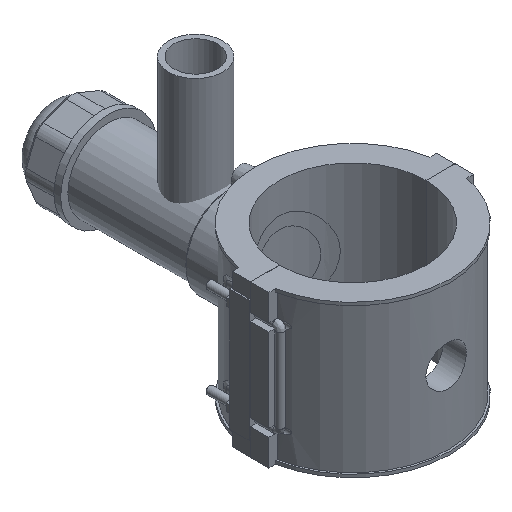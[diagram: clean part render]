
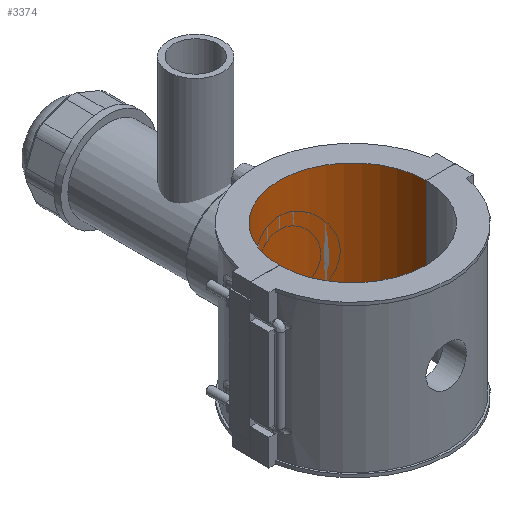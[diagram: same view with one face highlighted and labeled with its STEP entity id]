
A CAD part, isometric view. The second image highlights one B-rep face of the part: STEP entity #3374.
In plain terms, the highlighted cylindrical face has radius 57.05 mm (diameter 114.1 mm), a partial arc.
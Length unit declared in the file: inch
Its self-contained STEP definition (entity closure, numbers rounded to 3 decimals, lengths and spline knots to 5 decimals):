
#269=CIRCLE('',#3663,2.24606);
#270=CIRCLE('',#3665,2.24606);
#454=FACE_OUTER_BOUND('',#669,.T.);
#669=EDGE_LOOP('',(#2851,#2852,#2853,#2854));
#921=LINE('',#6310,#1222);
#955=LINE('',#6628,#1256);
#1222=VECTOR('',#4256,0.3937);
#1256=VECTOR('',#4390,0.3937);
#1590=VERTEX_POINT('',#6307);
#1591=VERTEX_POINT('',#6309);
#1626=VERTEX_POINT('',#6625);
#1627=VERTEX_POINT('',#6627);
#1994=EDGE_CURVE('',#1591,#1590,#921,.T.);
#2058=EDGE_CURVE('',#1627,#1626,#955,.T.);
#2061=EDGE_CURVE('',#1591,#1626,#269,.T.);
#2062=EDGE_CURVE('',#1627,#1590,#270,.T.);
#2851=ORIENTED_EDGE('',*,*,#2058,.T.);
#2852=ORIENTED_EDGE('',*,*,#2061,.F.);
#2853=ORIENTED_EDGE('',*,*,#1994,.T.);
#2854=ORIENTED_EDGE('',*,*,#2062,.F.);
#3229=CYLINDRICAL_SURFACE('',#3666,2.24606);
#3374=ADVANCED_FACE('',(#454),#3229,.F.);
#3663=AXIS2_PLACEMENT_3D('',#6633,#4395,#4396);
#3665=AXIS2_PLACEMENT_3D('',#6635,#4399,#4400);
#3666=AXIS2_PLACEMENT_3D('',#6638,#4403,#4404);
#4256=DIRECTION('',(0.,0.,-1.));
#4390=DIRECTION('',(0.,0.,1.));
#4395=DIRECTION('center_axis',(0.,0.,-1.));
#4396=DIRECTION('ref_axis',(-1.,0.,0.));
#4399=DIRECTION('center_axis',(0.,0.,1.));
#4400=DIRECTION('ref_axis',(-1.,0.,0.));
#4403=DIRECTION('center_axis',(0.,0.,1.));
#4404=DIRECTION('ref_axis',(-1.,0.,0.));
#6307=CARTESIAN_POINT('',(-2.24606,0.00197,-2.325));
#6309=CARTESIAN_POINT('',(-2.24606,0.00197,2.325));
#6310=CARTESIAN_POINT('',(-2.24606,0.00197,0.));
#6625=CARTESIAN_POINT('',(2.24606,0.00197,2.325));
#6627=CARTESIAN_POINT('',(2.24606,0.00197,-2.325));
#6628=CARTESIAN_POINT('',(2.24606,0.00197,0.));
#6633=CARTESIAN_POINT('Origin',(0.,0.,2.325));
#6635=CARTESIAN_POINT('Origin',(0.,0.,-2.325));
#6638=CARTESIAN_POINT('Origin',(0.,0.,0.));
